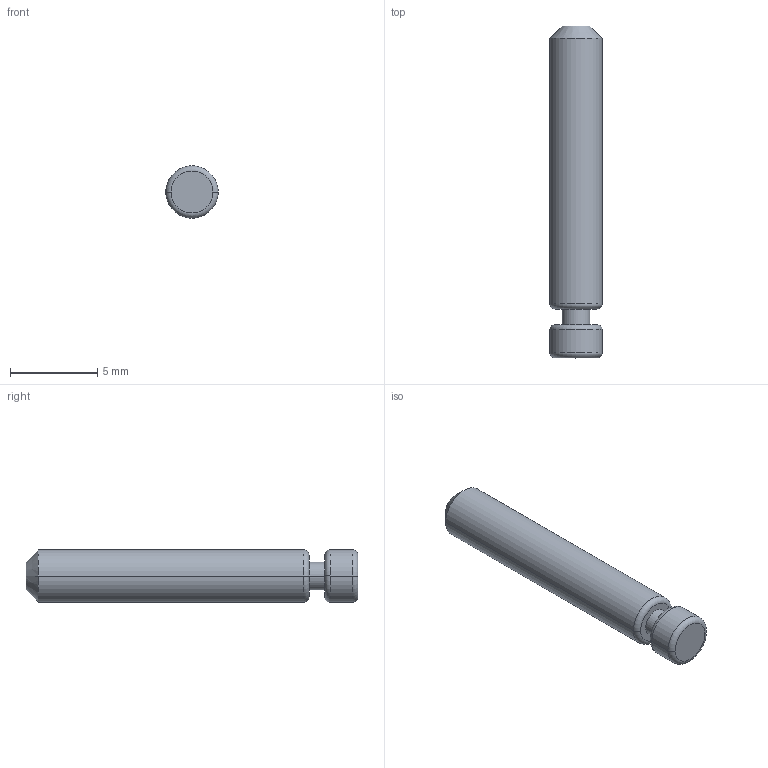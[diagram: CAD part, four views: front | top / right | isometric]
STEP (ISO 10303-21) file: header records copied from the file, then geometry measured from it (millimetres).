
FILE_DESCRIPTION((''),'2;1');
FILE_NAME('DOOR-LOCK-PIN','2021-03-24T',('Saeed'),(''),'PRO/ENGINEER BY PARAMETRIC TECHNOLOGY CORPORATION, 2012130','PRO/ENGINEER BY PARAMETRIC TECHNOLOGY CORPORATION, 2012130','');
FILE_SCHEMA(('CONFIG_CONTROL_DESIGN'));
Length unit declared in the file: millimetre
Products named in the file (1): DOOR-LOCK-PIN
Bounding box: 3 x 19 x 3 mm (x, y, z)
Volume: 127.3 mm3; surface area: 191.1 mm2
Topology: 1 solids, 1 shells, 18 faces, 34 edges, 20 vertices
Faces by surface type: cylinder 6, torus 6, plane 4, cone 2
Entity records: 498 total; most frequent: DIRECTION 96, CARTESIAN_POINT 72, ORIENTED_EDGE 68, AXIS2_PLACEMENT_3D 44, EDGE_CURVE 34, CIRCLE 26, VERTEX_POINT 20, EDGE_LOOP 20
